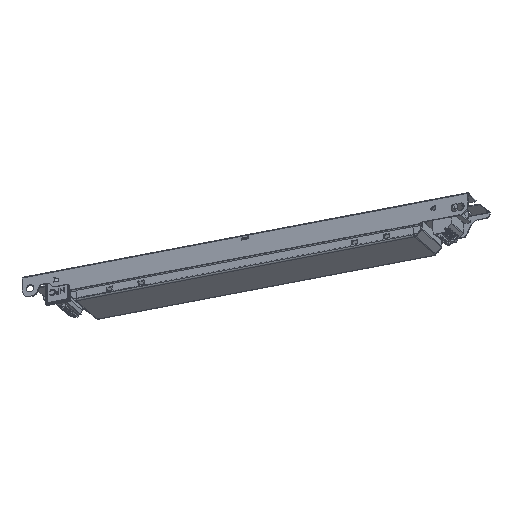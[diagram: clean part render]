
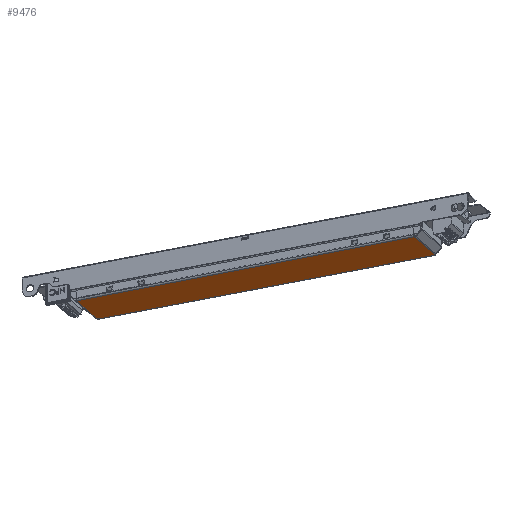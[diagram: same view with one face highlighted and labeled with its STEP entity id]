
A CAD part, front view. The second image highlights one B-rep face of the part: STEP entity #9476.
In plain terms, the highlighted planar face has unit normal (0, -0.407, -0.913).
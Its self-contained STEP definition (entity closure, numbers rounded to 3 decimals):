
#49 = ORIENTED_EDGE ( 'NONE', *, *, #17803, .F. ) ;
#439 = EDGE_CURVE ( 'NONE', #18797, #17317, #28669, .T. ) ;
#836 = VERTEX_POINT ( 'NONE', #21687 ) ;
#1075 = CARTESIAN_POINT ( 'NONE',  ( 93.472, -118.97, 302.039 ) ) ;
#1283 = DIRECTION ( 'NONE',  ( 0., 0.407, 0.914 ) ) ;
#1695 = CARTESIAN_POINT ( 'NONE',  ( 93.144, -118.83, 301.977 ) ) ;
#1828 = CARTESIAN_POINT ( 'NONE',  ( -31.812, 189.143, 164.858 ) ) ;
#2154 = CARTESIAN_POINT ( 'NONE',  ( 7.333, 171.459, 172.732 ) ) ;
#2960 = LINE ( 'NONE', #18440, #36683 ) ;
#3241 = DIRECTION ( 'NONE',  ( 0.906, -0.386, 0.172 ) ) ;
#3407 = VECTOR ( 'NONE', #33760, 1000. ) ;
#4227 = CARTESIAN_POINT ( 'NONE',  ( 188.753, 67.695, 218.93 ) ) ;
#4270 = ORIENTED_EDGE ( 'NONE', *, *, #10508, .F. ) ;
#4327 = ORIENTED_EDGE ( 'NONE', *, *, #7133, .T. ) ;
#4454 = EDGE_CURVE ( 'NONE', #12280, #34046, #14560, .T. ) ;
#5902 = VECTOR ( 'NONE', #24550, 1000. ) ;
#6307 = EDGE_CURVE ( 'NONE', #41026, #17317, #27032, .T. ) ;
#7133 = EDGE_CURVE ( 'NONE', #39356, #18797, #30003, .T. ) ;
#7564 = CARTESIAN_POINT ( 'NONE',  ( -138.618, -20.101, 258.02 ) ) ;
#7782 = ORIENTED_EDGE ( 'NONE', *, *, #15986, .T. ) ;
#8079 = ORIENTED_EDGE ( 'NONE', *, *, #38756, .T. ) ;
#8898 = FACE_OUTER_BOUND ( 'NONE', #33413, .T. ) ;
#9283 = ORIENTED_EDGE ( 'NONE', *, *, #29689, .F. ) ;
#9476 = ADVANCED_FACE ( 'NONE', ( #8898 ), #20830, .F. ) ;
#9515 = AXIS2_PLACEMENT_3D ( 'NONE', #7564, #1283, #24143 ) ;
#10397 = VERTEX_POINT ( 'NONE', #13298 ) ;
#10508 = EDGE_CURVE ( 'NONE', #836, #12154, #16444, .T. ) ;
#11111 = DIRECTION ( 'NONE',  ( -0.906, 0.386, -0.172 ) ) ;
#11731 = CARTESIAN_POINT ( 'NONE',  ( 8.084, 172.147, 172.425 ) ) ;
#12088 = LINE ( 'NONE', #1075, #3407 ) ;
#12154 = VERTEX_POINT ( 'NONE', #34187 ) ;
#12280 = VERTEX_POINT ( 'NONE', #31474 ) ;
#12808 = EDGE_CURVE ( 'NONE', #19924, #12154, #2960, .T. ) ;
#13298 = CARTESIAN_POINT ( 'NONE',  ( 199.856, 89.446, 209.246 ) ) ;
#14325 = LINE ( 'NONE', #37224, #38327 ) ;
#14560 = LINE ( 'NONE', #1695, #5902 ) ;
#15430 = DIRECTION ( 'NONE',  ( 0.423, 0.828, -0.369 ) ) ;
#15986 = EDGE_CURVE ( 'NONE', #12280, #19924, #24214, .T. ) ;
#16359 = CARTESIAN_POINT ( 'NONE',  ( -43.76, 165.736, 175.28 ) ) ;
#16444 = LINE ( 'NONE', #28504, #41527 ) ;
#16724 = VECTOR ( 'NONE', #22967, 1000. ) ;
#17317 = VERTEX_POINT ( 'NONE', #11731 ) ;
#17803 = EDGE_CURVE ( 'NONE', #10397, #37325, #14325, .T. ) ;
#18100 = DIRECTION ( 'NONE',  ( -0.906, 0.386, -0.172 ) ) ;
#18440 = CARTESIAN_POINT ( 'NONE',  ( -98.722, -37.097, 265.587 ) ) ;
#18797 = VERTEX_POINT ( 'NONE', #24522 ) ;
#18851 = ORIENTED_EDGE ( 'NONE', *, *, #12808, .T. ) ;
#18880 = ORIENTED_EDGE ( 'NONE', *, *, #33505, .F. ) ;
#19571 = CARTESIAN_POINT ( 'NONE',  ( 188.425, 67.835, 218.868 ) ) ;
#19924 = VERTEX_POINT ( 'NONE', #31274 ) ;
#20051 = VECTOR ( 'NONE', #15430, 1000. ) ;
#20830 = PLANE ( 'NONE',  #9515 ) ;
#21627 = CARTESIAN_POINT ( 'NONE',  ( -43.337, 166.564, 174.911 ) ) ;
#21687 = CARTESIAN_POINT ( 'NONE',  ( -3.769, 149.708, 182.416 ) ) ;
#22783 = CARTESIAN_POINT ( 'NONE',  ( -32.235, 188.315, 165.227 ) ) ;
#22967 = DIRECTION ( 'NONE',  ( 0.423, 0.828, -0.369 ) ) ;
#23904 = CARTESIAN_POINT ( 'NONE',  ( 199.527, 89.586, 209.184 ) ) ;
#24143 = DIRECTION ( 'NONE',  ( 0.906, -0.386, 0.172 ) ) ;
#24214 = LINE ( 'NONE', #16359, #31845 ) ;
#24522 = CARTESIAN_POINT ( 'NONE',  ( 7.662, 171.319, 172.794 ) ) ;
#24550 = DIRECTION ( 'NONE',  ( 0.423, 0.828, -0.369 ) ) ;
#25218 = DIRECTION ( 'NONE',  ( 0.906, -0.386, 0.172 ) ) ;
#26122 = ORIENTED_EDGE ( 'NONE', *, *, #439, .T. ) ;
#26396 = ORIENTED_EDGE ( 'NONE', *, *, #4454, .F. ) ;
#27032 = LINE ( 'NONE', #1828, #36707 ) ;
#28298 = ORIENTED_EDGE ( 'NONE', *, *, #6307, .F. ) ;
#28462 = CARTESIAN_POINT ( 'NONE',  ( 93.144, -118.83, 301.977 ) ) ;
#28504 = CARTESIAN_POINT ( 'NONE',  ( -43.337, 166.564, 174.911 ) ) ;
#28505 = VERTEX_POINT ( 'NONE', #4227 ) ;
#28669 = LINE ( 'NONE', #28885, #36304 ) ;
#28885 = CARTESIAN_POINT ( 'NONE',  ( -98.722, -37.097, 265.587 ) ) ;
#29689 = EDGE_CURVE ( 'NONE', #37325, #41026, #37425, .T. ) ;
#30003 = LINE ( 'NONE', #22783, #31019 ) ;
#30744 = VECTOR ( 'NONE', #31479, 1000. ) ;
#31019 = VECTOR ( 'NONE', #3241, 1000. ) ;
#31274 = CARTESIAN_POINT ( 'NONE',  ( -3.863, 148.74, 182.847 ) ) ;
#31474 = CARTESIAN_POINT ( 'NONE',  ( 188.002, 67.007, 219.237 ) ) ;
#31479 = DIRECTION ( 'NONE',  ( -0.906, 0.386, -0.172 ) ) ;
#31845 = VECTOR ( 'NONE', #32659, 1000. ) ;
#32659 = DIRECTION ( 'NONE',  ( -0.906, 0.386, -0.172 ) ) ;
#32736 = EDGE_CURVE ( 'NONE', #836, #39356, #34131, .T. ) ;
#33413 = EDGE_LOOP ( 'NONE', ( #18880, #8079, #26396, #7782, #18851, #4270, #39165, #4327, #26122, #28298, #9283, #49 ) ) ;
#33505 = EDGE_CURVE ( 'NONE', #28505, #10397, #12088, .T. ) ;
#33760 = DIRECTION ( 'NONE',  ( 0.423, 0.828, -0.369 ) ) ;
#34046 = VERTEX_POINT ( 'NONE', #19571 ) ;
#34131 = LINE ( 'NONE', #39243, #16724 ) ;
#34187 = CARTESIAN_POINT ( 'NONE',  ( -3.441, 149.568, 182.478 ) ) ;
#35002 = CARTESIAN_POINT ( 'NONE',  ( 199.95, 90.414, 208.815 ) ) ;
#36304 = VECTOR ( 'NONE', #42152, 1000. ) ;
#36683 = VECTOR ( 'NONE', #38128, 1000. ) ;
#36707 = VECTOR ( 'NONE', #18100, 1000. ) ;
#37224 = CARTESIAN_POINT ( 'NONE',  ( -32.235, 188.315, 165.227 ) ) ;
#37325 = VERTEX_POINT ( 'NONE', #23904 ) ;
#37425 = LINE ( 'NONE', #28462, #20051 ) ;
#38128 = DIRECTION ( 'NONE',  ( 0.423, 0.828, -0.369 ) ) ;
#38327 = VECTOR ( 'NONE', #11111, 1000. ) ;
#38756 = EDGE_CURVE ( 'NONE', #28505, #34046, #39412, .T. ) ;
#39165 = ORIENTED_EDGE ( 'NONE', *, *, #32736, .T. ) ;
#39243 = CARTESIAN_POINT ( 'NONE',  ( -99.05, -36.957, 265.524 ) ) ;
#39356 = VERTEX_POINT ( 'NONE', #2154 ) ;
#39412 = LINE ( 'NONE', #21627, #30744 ) ;
#41026 = VERTEX_POINT ( 'NONE', #35002 ) ;
#41527 = VECTOR ( 'NONE', #25218, 1000. ) ;
#42152 = DIRECTION ( 'NONE',  ( 0.423, 0.828, -0.369 ) ) ;
